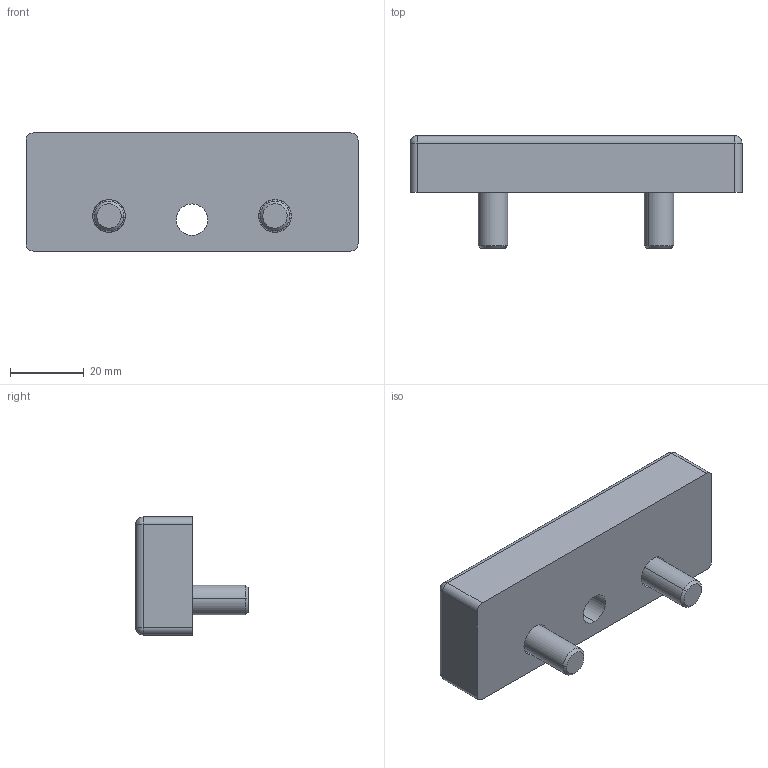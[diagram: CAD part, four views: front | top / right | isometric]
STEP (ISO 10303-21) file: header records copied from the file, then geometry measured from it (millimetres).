
FILE_DESCRIPTION (( 'STEP AP214' ), '1' );
FILE_NAME ('1.5005 Kierrelevy 32x90 M10.STEP', '2025-09-16T07:20:08', ( '' ), ( '' ), 'SwSTEP 2.0', 'SolidWorks 2025', '' );
FILE_SCHEMA (( 'AUTOMOTIVE_DESIGN' ));
Length unit declared in the file: millimetre
Products named in the file (1): 1.5005 Kierrelevy 32x90 M10
Bounding box: 90 x 30.5 x 32 mm (x, y, z)
Volume: 43509.1 mm3; surface area: 12588.9 mm2
Topology: 3 solids, 3 shells, 86 faces, 190 edges, 108 vertices
Faces by surface type: plane 38, cylinder 26, cone 10, torus 8, sphere 4
Entity records: 3291 total; most frequent: DIRECTION 442, CARTESIAN_POINT 377, ORIENTED_EDGE 364, EDGE_CURVE 182, AXIS2_PLACEMENT_3D 173, VERTEX_POINT 108, EDGE_LOOP 98, VECTOR 96
